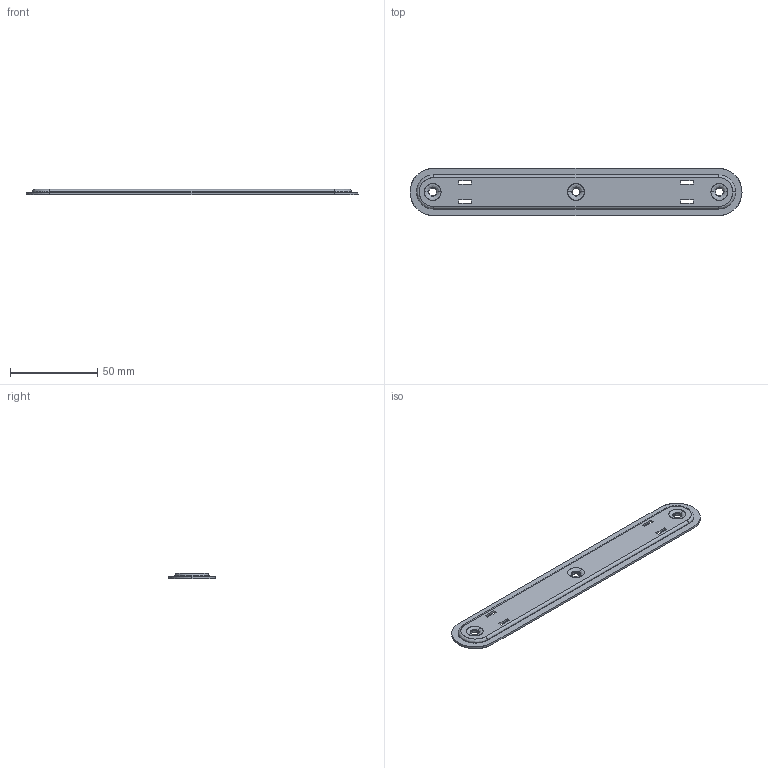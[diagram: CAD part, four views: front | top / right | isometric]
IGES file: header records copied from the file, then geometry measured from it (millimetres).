
Start section: SolidWorks IGES FILE using analytic representation for surfaces
Global section: file name: C:\Documents and Settings\lecoutey\Bureau\POF 310\310.010.10.IGS; native system: SolidWorks 2004 by SolidWorks Corporation; preprocessor: Version 5.3; author: lecoutey; date: 050408.141041; units: millimetre
Bounding box: 190 x 27 x 3 mm (x, y, z)
Surface area: 11320.4 mm2 (no closed solid volume)
Topology: 0 solids, 0 shells, 72 faces, 884 edges, 884 vertices
Faces by surface type: bspline 41, revolution 31
